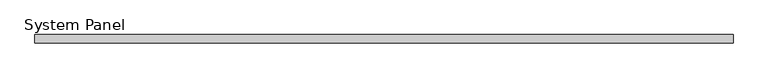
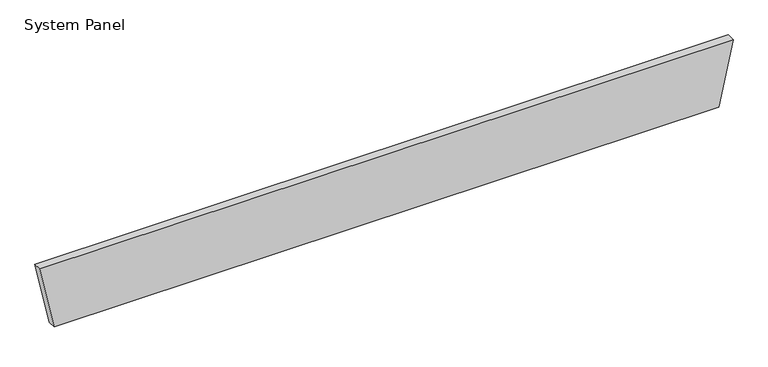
"""IFC4 building model written with IfcOpenShell, lengths in millimetres: plate geometry, System Panel : Equitilt_150mm_Plain_Surfmist."""

from ifc_helpers import new_model, si_unit, frame, origin, place, context, project, spatial, polyline, outline, extrude, source, transform, mapped, element, save


def system_panel_5412cff0(model_context):
    return source(origin(), model_context, "Body", "SweptSolid", [
        extrude(outline(polyline([(0.0, -6000.0), (0.0, 6000.0), (1200.0, 6260.8716619), (1200.0, -6260.8716619), (0.0, -6000.0)])), frame((0.0, -150.0, 0.0), z_axis=(0.0, 1.0, 0.0), x_axis=(0.0, 0.0, 1.0)), (0.0, 0.0, 1.0), 150.0),
    ])


if __name__ == "__main__":
    model = new_model("IFC4")
    model_context = context("Model", 3, world=origin())
    ifc_project = project(units=[si_unit("LENGTHUNIT", "METRE", prefix="MILLI")], contexts=[model_context])
    site = spatial("IfcSite", under=ifc_project)
    building = spatial("IfcBuilding", under=site)
    placement = place(None, origin())
    system_panel_shape = system_panel_5412cff0(model_context)
    element("IfcPlate", 1, ObjectType="System Panel : Equitilt_150mm_Plain_Surfmist", at=placement, inside=building, context=model_context, shape_type="MappedRepresentation", body=[
        mapped(system_panel_shape, transform((0.0, 0.0, 0.0), x_axis=(1.0, 0.0, 0.0), y_axis=(0.0, 1.0, 0.0), z_axis=(0.0, 0.0, 1.0))),
    ])
    save(model, "model.ifc")
